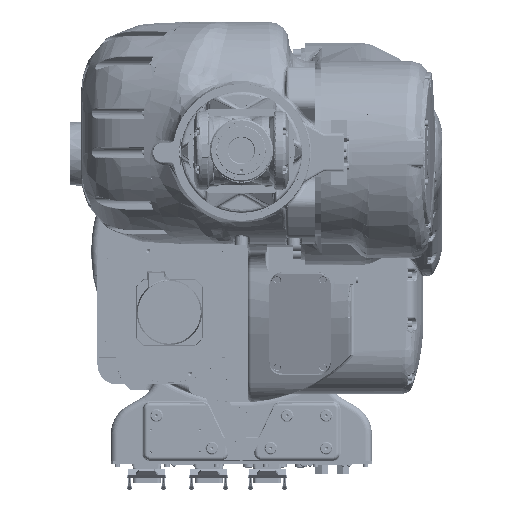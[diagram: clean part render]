
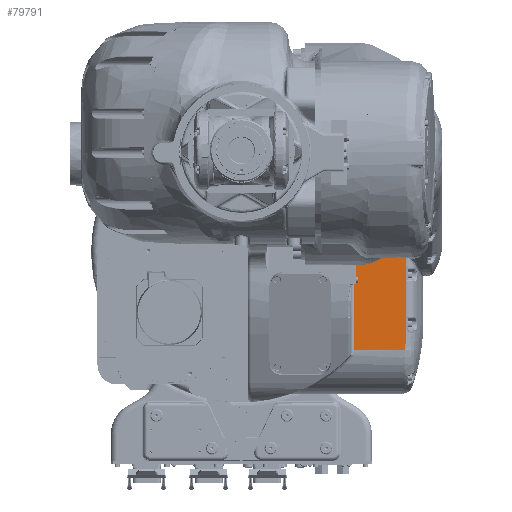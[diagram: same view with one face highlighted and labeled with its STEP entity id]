
A CAD part, top view. The second image highlights one B-rep face of the part: STEP entity #79791.
In plain terms, the highlighted planar face has unit normal (0, 0, 1).
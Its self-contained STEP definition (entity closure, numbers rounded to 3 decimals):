
#64354=CARTESIAN_POINT('Vertex',(173.,19.405,-216.)) ;
#64854=CARTESIAN_POINT('Vertex',(173.,-150.,-216.)) ;
#74070=CARTESIAN_POINT('Line Origine',(122.5,19.405,-216.)) ;
#74074=CARTESIAN_POINT('Vertex',(245.,19.405,-216.)) ;
#74094=CARTESIAN_POINT('Line Origine',(173.,13.493,-216.)) ;
#74111=CARTESIAN_POINT('Line Origine',(245.,21.355,-216.)) ;
#74115=CARTESIAN_POINT('Vertex',(245.,23.305,-216.)) ;
#74150=CARTESIAN_POINT('Vertex',(245.,-150.,-216.)) ;
#74153=CARTESIAN_POINT('Line Origine',(122.5,-150.,-216.)) ;
#74166=CARTESIAN_POINT('Line Origine',(122.5,-150.,-216.)) ;
#74170=CARTESIAN_POINT('Vertex',(251.261,-150.,-216.)) ;
#79443=CARTESIAN_POINT('Line Origine',(262.,23.305,-216.)) ;
#79447=CARTESIAN_POINT('Vertex',(252.264,23.305,-216.)) ;
#79758=CARTESIAN_POINT('Axis2P3D Location',(0.,19.405,-216.)) ;
#79764=CARTESIAN_POINT('Control Point',(251.261,-150.,-216.)) ;
#79765=CARTESIAN_POINT('Control Point',(251.61,-144.144,-216.)) ;
#79766=CARTESIAN_POINT('Control Point',(251.852,-138.327,-216.)) ;
#79767=CARTESIAN_POINT('Control Point',(252.012,-132.569,-216.)) ;
#79768=CARTESIAN_POINT('Control Point',(252.172,-123.932,-216.)) ;
#79769=CARTESIAN_POINT('Control Point',(252.241,-115.343,-216.)) ;
#79770=CARTESIAN_POINT('Control Point',(252.256,-112.472,-216.)) ;
#79771=CARTESIAN_POINT('Control Point',(252.264,-109.602,-216.)) ;
#79772=CARTESIAN_POINT('Control Point',(252.264,-106.732,-216.)) ;
#79773=CARTESIAN_POINT('Vertex',(252.264,-106.732,-216.)) ;
#79776=CARTESIAN_POINT('Line Origine',(252.264,-41.714,-216.)) ;
#74071=DIRECTION('Vector Direction',(-1.,0.,0.)) ;
#74095=DIRECTION('Vector Direction',(0.,-1.,0.)) ;
#74112=DIRECTION('Vector Direction',(0.,1.,0.)) ;
#74154=DIRECTION('Vector Direction',(-1.,0.,0.)) ;
#74167=DIRECTION('Vector Direction',(-1.,0.,0.)) ;
#79444=DIRECTION('Vector Direction',(1.,0.,0.)) ;
#79759=DIRECTION('Axis2P3D Direction',(0.,0.,1.)) ;
#79760=DIRECTION('Axis2P3D XDirection',(0.,-1.,0.)) ;
#79777=DIRECTION('Vector Direction',(0.,-1.,0.)) ;
#79761=AXIS2_PLACEMENT_3D('Plane Axis2P3D',#79758,#79759,#79760) ;
#79782=ORIENTED_EDGE('',*,*,#74098,.T.) ;
#79783=ORIENTED_EDGE('',*,*,#74157,.T.) ;
#79784=ORIENTED_EDGE('',*,*,#74172,.T.) ;
#79785=ORIENTED_EDGE('',*,*,#79775,.F.) ;
#79786=ORIENTED_EDGE('',*,*,#79780,.F.) ;
#79787=ORIENTED_EDGE('',*,*,#79449,.F.) ;
#79788=ORIENTED_EDGE('',*,*,#74117,.T.) ;
#79789=ORIENTED_EDGE('',*,*,#74076,.F.) ;
#74072=VECTOR('Line Direction',#74071,1.) ;
#74096=VECTOR('Line Direction',#74095,1.) ;
#74113=VECTOR('Line Direction',#74112,1.) ;
#74155=VECTOR('Line Direction',#74154,1.) ;
#74168=VECTOR('Line Direction',#74167,1.) ;
#79445=VECTOR('Line Direction',#79444,1.) ;
#79778=VECTOR('Line Direction',#79777,1.) ;
#79791=ADVANCED_FACE('J2',(#79790),#79762,.T.) ;
#79763=B_SPLINE_CURVE_WITH_KNOTS('',5,(#79764,#79765,#79766,#79767,#79768,#79769,#79770,#79771,#79772),.UNSPECIFIED.,.F.,.U.,(6,3,6),(0.,40.739,61.245),.UNSPECIFIED.) ;
#74076=EDGE_CURVE('',#64355,#74075,#74073,.F.) ;
#74098=EDGE_CURVE('',#64355,#64855,#74097,.T.) ;
#74117=EDGE_CURVE('',#74116,#74075,#74114,.F.) ;
#74157=EDGE_CURVE('',#64855,#74151,#74156,.F.) ;
#74172=EDGE_CURVE('',#74151,#74171,#74169,.F.) ;
#79449=EDGE_CURVE('',#74116,#79448,#79446,.T.) ;
#79775=EDGE_CURVE('',#79774,#74171,#79763,.F.) ;
#79780=EDGE_CURVE('',#79448,#79774,#79779,.T.) ;
#79781=EDGE_LOOP('',(#79782,#79783,#79784,#79785,#79786,#79787,#79788,#79789)) ;
#79790=FACE_OUTER_BOUND('',#79781,.T.) ;
#74073=LINE('Line',#74070,#74072) ;
#74097=LINE('Line',#74094,#74096) ;
#74114=LINE('Line',#74111,#74113) ;
#74156=LINE('Line',#74153,#74155) ;
#74169=LINE('Line',#74166,#74168) ;
#79446=LINE('Line',#79443,#79445) ;
#79779=LINE('Line',#79776,#79778) ;
#79762=PLANE('',#79761) ;
#64355=VERTEX_POINT('',#64354) ;
#64855=VERTEX_POINT('',#64854) ;
#74075=VERTEX_POINT('',#74074) ;
#74116=VERTEX_POINT('',#74115) ;
#74151=VERTEX_POINT('',#74150) ;
#74171=VERTEX_POINT('',#74170) ;
#79448=VERTEX_POINT('',#79447) ;
#79774=VERTEX_POINT('',#79773) ;
